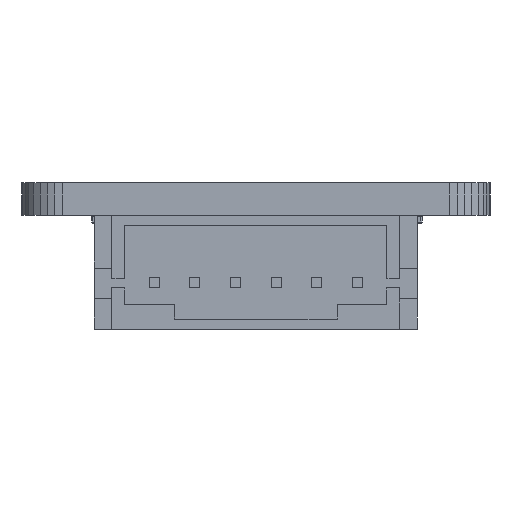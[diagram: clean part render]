
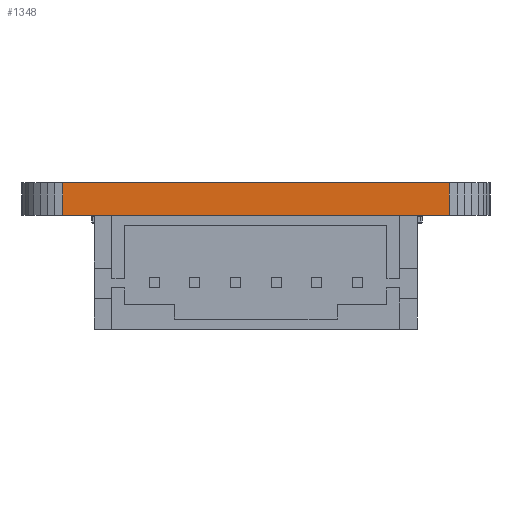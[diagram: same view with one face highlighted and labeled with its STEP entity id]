
A CAD part, front view. The second image highlights one B-rep face of the part: STEP entity #1348.
In plain terms, the highlighted planar face has unit normal (-0.001, -1, 0).
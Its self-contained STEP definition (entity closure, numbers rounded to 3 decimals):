
#110=DIRECTION('',(1.,-0.001,0.));
#111=VECTOR('',#110,19.);
#112=CARTESIAN_POINT('',(2.,0.,0.));
#113=LINE('',#112,#111);
#429=DIRECTION('',(0.,0.,-1.));
#430=VECTOR('',#429,1.6);
#431=CARTESIAN_POINT('',(2.,0.,1.6));
#432=LINE('',#431,#430);
#436=DIRECTION('',(1.,-0.001,0.));
#437=VECTOR('',#436,19.);
#438=CARTESIAN_POINT('',(2.,0.,1.6));
#439=LINE('',#438,#437);
#443=DIRECTION('',(0.,0.,-1.));
#444=VECTOR('',#443,1.6);
#445=CARTESIAN_POINT('',(21.,-0.01,1.6));
#446=LINE('',#445,#444);
#890=CARTESIAN_POINT('',(2.,0.,0.));
#891=VERTEX_POINT('',#890);
#892=CARTESIAN_POINT('',(21.,-0.01,0.));
#893=VERTEX_POINT('',#892);
#970=CARTESIAN_POINT('',(2.,0.,1.6));
#971=VERTEX_POINT('',#970);
#972=CARTESIAN_POINT('',(21.,-0.01,1.6));
#973=VERTEX_POINT('',#972);
#1336=CARTESIAN_POINT('',(2.,0.,0.));
#1337=DIRECTION('',(0.001,1.,0.));
#1338=DIRECTION('',(1.,-0.001,0.));
#1339=AXIS2_PLACEMENT_3D('',#1336,#1337,#1338);
#1340=PLANE('',#1339);
#1341=ORIENTED_EDGE('',*,*,#1110,.T.);
#1343=ORIENTED_EDGE('',*,*,#1342,.T.);
#1344=ORIENTED_EDGE('',*,*,#1175,.F.);
#1345=ORIENTED_EDGE('',*,*,#1329,.F.);
#1346=EDGE_LOOP('',(#1341,#1343,#1344,#1345));
#1347=FACE_OUTER_BOUND('',#1346,.F.);
#1348=ADVANCED_FACE('',(#1347),#1340,.F.);
#1110=EDGE_CURVE('',#971,#973,#439,.T.);
#1175=EDGE_CURVE('',#891,#893,#113,.T.);
#1329=EDGE_CURVE('',#971,#891,#432,.T.);
#1342=EDGE_CURVE('',#973,#893,#446,.T.);
